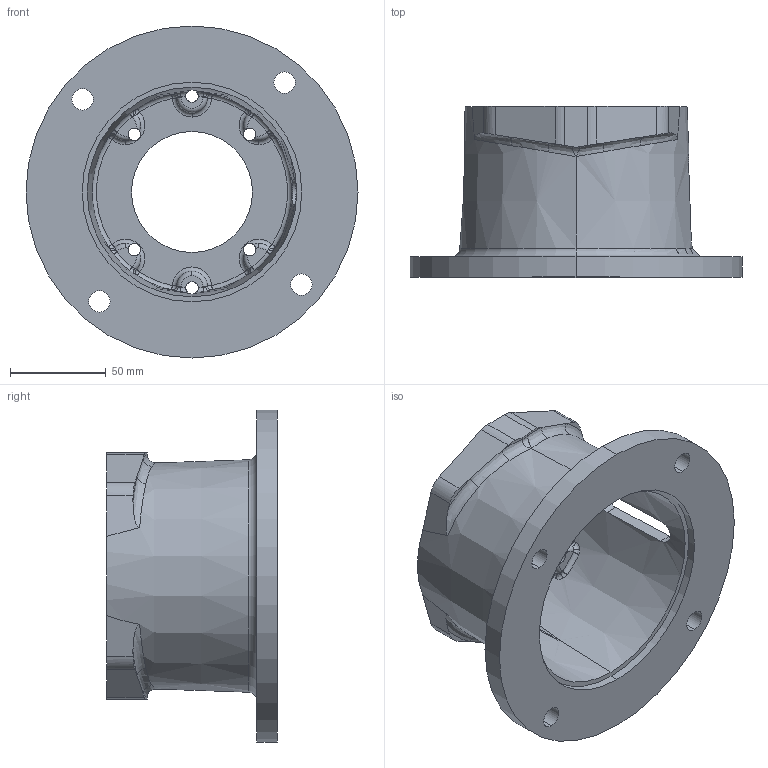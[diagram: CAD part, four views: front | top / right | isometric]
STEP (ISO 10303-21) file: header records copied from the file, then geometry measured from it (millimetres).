
FILE_DESCRIPTION (( 'STEP AP203' ), '1' );
FILE_NAME ('M0563563M.STEP', '2015-01-19T15:23:25', ( '' ), ( '' ), 'SwSTEP 2.0', 'SolidWorks 2014', '' );
FILE_SCHEMA (( 'CONFIG_CONTROL_DESIGN' ));
Length unit declared in the file: inch
Products named in the file (1): M0563563M
Bounding box: 172.97 x 88.9 x 172.97 mm (x, y, z)
Volume: 401941.2 mm3; surface area: 105425.4 mm2
Topology: 1 solids, 1 shells, 220 faces, 577 edges, 341 vertices
Faces by surface type: torus 51, cylinder 50, bspline 50, plane 31, sphere 24, cone 14
Entity records: 9166 total; most frequent: CARTESIAN_POINT 4016, ORIENTED_EDGE 1126, DIRECTION 1048, EDGE_CURVE 563, AXIS2_PLACEMENT_3D 476, VERTEX_POINT 341, CIRCLE 305, EDGE_LOOP 240
